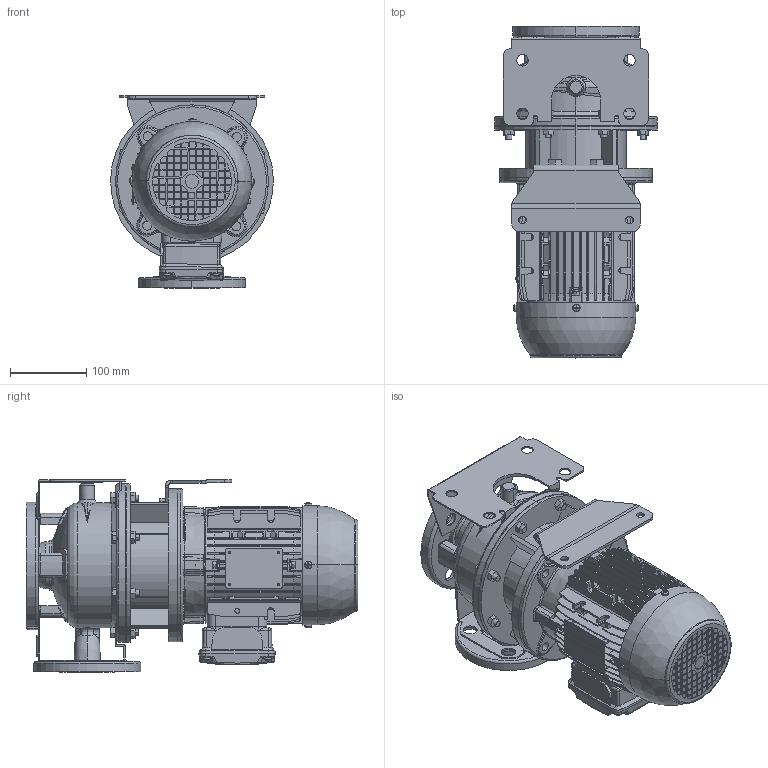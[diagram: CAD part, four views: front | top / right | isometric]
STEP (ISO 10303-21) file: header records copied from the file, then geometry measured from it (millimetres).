
FILE_DESCRIPTION (( 'STEP AP214' ), '1' );
FILE_NAME ('3LS 32-125_1.1_(80 )_W21.STEP', '2024-11-06T22:29:29', ( '' ), ( '' ), 'SwSTEP 2.0', 'SolidWorks 2019', '' );
FILE_SCHEMA (( 'AUTOMOTIVE_DESIGN' ));
Length unit declared in the file: inch
Products named in the file (3): 32-125_1_1; 3LS 32-125_1.1_(80 )_W21; 80 ALIE3_W21_B5
Assembly tree (2 placements, depth 2):
  3LS 32-125_1.1_(80 )_W21
    32-125_1_1
    80 ALIE3_W21_B5
Bounding box: 212.96 x 434 x 252 mm (x, y, z)
Volume: 6974023.5 mm3; surface area: 937939.1 mm2
Topology: 12 solids, 18 shells, 2924 faces, 7659 edges, 4953 vertices
Faces by surface type: plane 1808, cylinder 695, bspline 160, torus 133, cone 94, sphere 34
Entity records: 118700 total; most frequent: CARTESIAN_POINT 38704, ORIENTED_EDGE 15266, DIRECTION 13853, EDGE_CURVE 7633, VECTOR 4961, LINE 4961, VERTEX_POINT 4949, AXIS2_PLACEMENT_3D 4446
